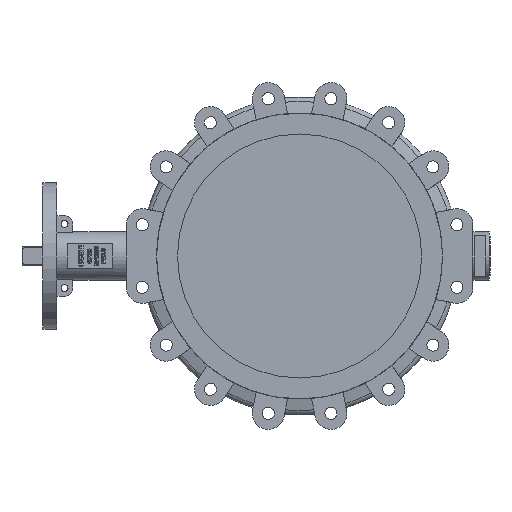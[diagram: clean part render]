
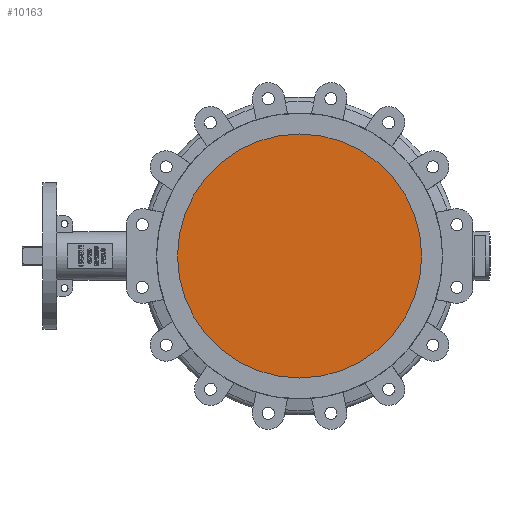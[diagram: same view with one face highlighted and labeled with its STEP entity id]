
A CAD part, left-side view. The second image highlights one B-rep face of the part: STEP entity #10163.
In plain terms, the highlighted planar face has unit normal (-1, 0, 0).
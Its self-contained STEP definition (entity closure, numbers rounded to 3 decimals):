
#680=FACE_OUTER_BOUND('',#1221,.T.);
#1221=EDGE_LOOP('',(#6497));
#3664=CIRCLE('',#10798,175.);
#4008=VERTEX_POINT('',#14001);
#5003=EDGE_CURVE('',#4008,#4008,#3664,.T.);
#6497=ORIENTED_EDGE('',*,*,#5003,.F.);
#9321=PLANE('',#10799);
#10163=ADVANCED_FACE('',(#680),#9321,.F.);
#10798=AXIS2_PLACEMENT_3D('',#14003,#11660,#11661);
#10799=AXIS2_PLACEMENT_3D('',#14004,#11662,#11663);
#11660=DIRECTION('center_axis',(1.,0.,0.));
#11661=DIRECTION('ref_axis',(0.,0.,-1.));
#11662=DIRECTION('center_axis',(1.,0.,0.));
#11663=DIRECTION('ref_axis',(0.,0.,-1.));
#14001=CARTESIAN_POINT('',(-127.231,39.406,175.));
#14003=CARTESIAN_POINT('Origin',(-127.231,39.406,0.));
#14004=CARTESIAN_POINT('Origin',(-127.231,39.406,0.));
